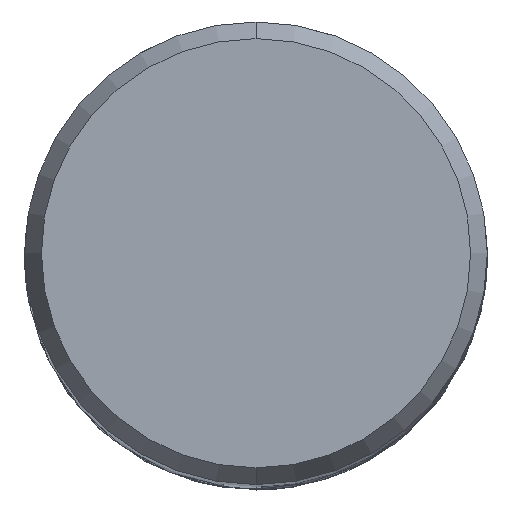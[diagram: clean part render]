
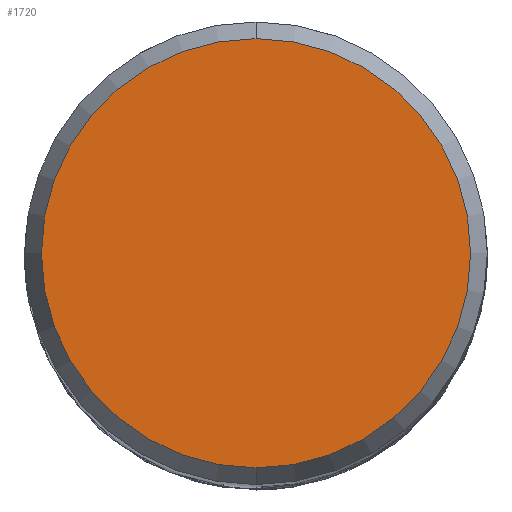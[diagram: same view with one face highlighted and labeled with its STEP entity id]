
A CAD part, top view. The second image highlights one B-rep face of the part: STEP entity #1720.
In plain terms, the highlighted planar face has unit normal (0, 0, 1).
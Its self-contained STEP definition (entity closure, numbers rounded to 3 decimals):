
#954=EDGE_CURVE('',#1794,#2010,#2423,.T.);
#1492=EDGE_CURVE('',#2010,#1794,#3013,.T.);
#1720=ADVANCED_FACE('',(#3259),#3260,.T.);
#1794=VERTEX_POINT('',#3341);
#2010=VERTEX_POINT('',#3575);
#2423=CIRCLE('',#6656,7.423);
#3013=CIRCLE('',#14881,7.423);
#3259=FACE_OUTER_BOUND('',#17358,.T.);
#3260=PLANE('',#17359);
#3341=CARTESIAN_POINT('',(0.,-7.423,0.0));
#3575=CARTESIAN_POINT('',(0.0,7.423,0.0));
#6656=AXIS2_PLACEMENT_3D('',#23583,#23584,#23585);
#14881=AXIS2_PLACEMENT_3D('',#24200,#24201,#24202);
#17358=EDGE_LOOP('',(#24429,#24430));
#17359=AXIS2_PLACEMENT_3D('',#24431,#24432,#24433);
#23583=CARTESIAN_POINT('',(0.0,0.0,0.0));
#23584=DIRECTION('',(0.0,0.0,-1.0));
#23585=DIRECTION('',(0.0,1.0,0.0));
#24200=CARTESIAN_POINT('',(0.0,0.0,0.0));
#24201=DIRECTION('',(0.0,0.0,-1.0));
#24202=DIRECTION('',(0.0,1.0,0.0));
#24429=ORIENTED_EDGE('',*,*,#1492,.F.);
#24430=ORIENTED_EDGE('',*,*,#954,.F.);
#24431=CARTESIAN_POINT('',(0.0,3.711,0.0));
#24432=DIRECTION('',(-0.0,0.0,1.0));
#24433=DIRECTION('',(0.0,-1.0,0.0));
